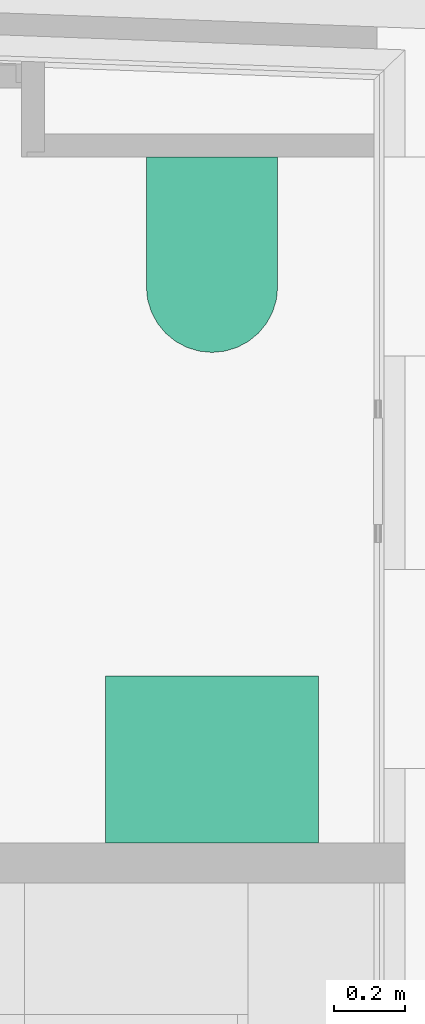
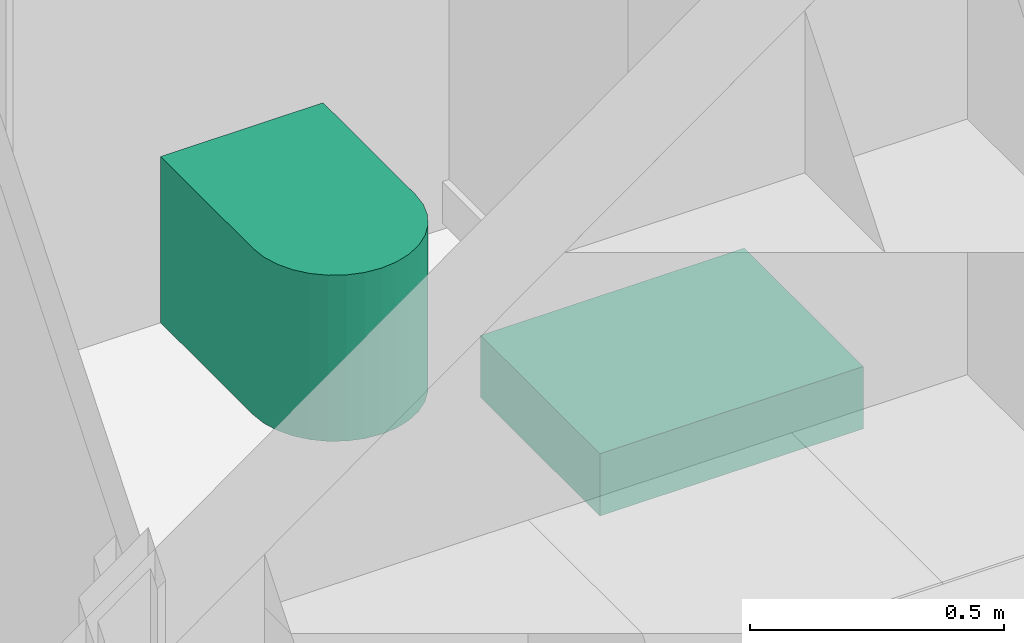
# One storey, part 22 of 23: 2 flow terminals.
"""IFC2X3 building model written with IfcOpenShell, lengths in metres."""

from ifc_helpers import new_model, entity, si_unit, converted_unit, derived_unit, money_unit, direction, frame, origin_with_axes, place, context, subcontext, project, spatial, faceted_brep, type_object, element, save


model = new_model("IFC2X3")

# Units and contexts
model_context = context("Model", 3, precision=1e-05, world=origin_with_axes(), true_north=direction((0.0, 1.0)))
body_context = subcontext(model_context, "Body", "Model", "MODEL_VIEW", scale=1.0)
ifc_project = project(units=[si_unit("LENGTHUNIT", "METRE"), si_unit("AREAUNIT", "SQUARE_METRE"), si_unit("VOLUMEUNIT", "CUBIC_METRE"), si_unit("ABSORBEDDOSEUNIT", "GRAY"), si_unit("AMOUNTOFSUBSTANCEUNIT", "MOLE"), si_unit("DOSEEQUIVALENTUNIT", "SIEVERT"), si_unit("ELECTRICCAPACITANCEUNIT", "FARAD"), si_unit("ELECTRICCHARGEUNIT", "COULOMB"), si_unit("ELECTRICCONDUCTANCEUNIT", "SIEMENS"), si_unit("ELECTRICCURRENTUNIT", "AMPERE"), si_unit("ELECTRICRESISTANCEUNIT", "OHM"), si_unit("ELECTRICVOLTAGEUNIT", "VOLT"), si_unit("ENERGYUNIT", "JOULE"), si_unit("FORCEUNIT", "NEWTON"), si_unit("FREQUENCYUNIT", "HERTZ"), si_unit("ILLUMINANCEUNIT", "LUX"), si_unit("INDUCTANCEUNIT", "HENRY"), si_unit("LUMINOUSFLUXUNIT", "LUMEN"), si_unit("LUMINOUSINTENSITYUNIT", "CANDELA"), si_unit("MAGNETICFLUXDENSITYUNIT", "TESLA"), si_unit("MAGNETICFLUXUNIT", "WEBER"), si_unit("MASSUNIT", "GRAM"), converted_unit("PLANEANGLEUNIT", "degree", entity("IfcReal", 0.0174532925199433), si_unit("PLANEANGLEUNIT", "RADIAN"), dimensions=[0, 0, 0, 0, 0, 0, 0]), si_unit("POWERUNIT", "WATT"), si_unit("PRESSUREUNIT", "PASCAL"), si_unit("RADIOACTIVITYUNIT", "BECQUEREL"), si_unit("SOLIDANGLEUNIT", "STERADIAN"), si_unit("THERMODYNAMICTEMPERATUREUNIT", "KELVIN"), si_unit("TIMEUNIT", "SECOND"), derived_unit("ACCELERATIONUNIT", [(si_unit("LENGTHUNIT", "METRE"), 1), (si_unit("TIMEUNIT", "SECOND"), -2)]), derived_unit("ANGULARVELOCITYUNIT", [(converted_unit("PLANEANGLEUNIT", "degree", entity("IfcReal", 0.0174532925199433), si_unit("PLANEANGLEUNIT", "RADIAN"), dimensions=[0, 0, 0, 0, 0, 0, 0]), 1), (si_unit("TIMEUNIT", "SECOND"), -1)]), derived_unit("CURVATUREUNIT", [(converted_unit("PLANEANGLEUNIT", "degree", entity("IfcReal", 0.0174532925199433), si_unit("PLANEANGLEUNIT", "RADIAN"), dimensions=[0, 0, 0, 0, 0, 0, 0]), 1), (si_unit("LENGTHUNIT", "METRE"), -1)]), derived_unit("DYNAMICVISCOSITYUNIT", [(si_unit("PRESSUREUNIT", "PASCAL"), 1), (si_unit("TIMEUNIT", "SECOND"), 1)]), derived_unit("HEATFLUXDENSITYUNIT", [(si_unit("POWERUNIT", "WATT"), 1), (si_unit("LENGTHUNIT", "METRE"), -2)]), derived_unit("HEATINGVALUEUNIT", [(si_unit("ENERGYUNIT", "JOULE"), 1), (si_unit("MASSUNIT", "GRAM"), -1)]), derived_unit("INTEGERCOUNTRATEUNIT", [(si_unit("TIMEUNIT", "SECOND"), -1)]), derived_unit("IONCONCENTRATIONUNIT", [(si_unit("MASSUNIT", "GRAM"), 1), (si_unit("VOLUMEUNIT", "CUBIC_METRE"), -1)]), derived_unit("ISOTHERMALMOISTURECAPACITYUNIT", [(si_unit("VOLUMEUNIT", "CUBIC_METRE"), 1), (si_unit("MASSUNIT", "GRAM"), -1)]), derived_unit("KINEMATICVISCOSITYUNIT", [(si_unit("AREAUNIT", "SQUARE_METRE"), 1), (si_unit("TIMEUNIT", "SECOND"), -1)]), derived_unit("LINEARFORCEUNIT", [(si_unit("FORCEUNIT", "NEWTON"), 1), (si_unit("LENGTHUNIT", "METRE"), -1)]), derived_unit("LINEARMOMENTUNIT", [(si_unit("FORCEUNIT", "NEWTON"), 1), (si_unit("LENGTHUNIT", "METRE"), -1)]), derived_unit("LINEARSTIFFNESSUNIT", [(si_unit("FORCEUNIT", "NEWTON"), 1), (si_unit("LENGTHUNIT", "METRE"), -1)]), derived_unit("LINEARVELOCITYUNIT", [(si_unit("LENGTHUNIT", "METRE"), 1), (si_unit("TIMEUNIT", "SECOND"), -1)]), derived_unit("LUMINOUSINTENSITYDISTRIBUTIONUNIT", [(si_unit("LUMINOUSINTENSITYUNIT", "CANDELA"), 1), (si_unit("LUMINOUSFLUXUNIT", "LUMEN"), -1)]), derived_unit("MASSDENSITYUNIT", [(si_unit("MASSUNIT", "GRAM"), 1), (si_unit("VOLUMEUNIT", "CUBIC_METRE"), -1)]), derived_unit("MASSFLOWRATEUNIT", [(si_unit("MASSUNIT", "GRAM"), 1), (si_unit("TIMEUNIT", "SECOND"), -1)]), derived_unit("MASSPERLENGTHUNIT", [(si_unit("MASSUNIT", "GRAM"), 1), (si_unit("LENGTHUNIT", "METRE"), -1)]), derived_unit("MODULUSOFELASTICITYUNIT", [(si_unit("FORCEUNIT", "NEWTON"), 1), (si_unit("AREAUNIT", "SQUARE_METRE"), -1)]), derived_unit("MODULUSOFLINEARSUBGRADEREACTIONUNIT", [(si_unit("FORCEUNIT", "NEWTON"), 1), (si_unit("LENGTHUNIT", "METRE"), -2)]), derived_unit("MODULUSOFROTATIONALSUBGRADEREACTIONUNIT", [(si_unit("FORCEUNIT", "NEWTON"), 1), (si_unit("LENGTHUNIT", "METRE"), 1)]), derived_unit("MODULUSOFSUBGRADEREACTIONUNIT", [(si_unit("FORCEUNIT", "NEWTON"), 1), (si_unit("VOLUMEUNIT", "CUBIC_METRE"), -1)]), derived_unit("MOISTUREDIFFUSIVITYUNIT", [(si_unit("VOLUMEUNIT", "CUBIC_METRE"), 1), (si_unit("TIMEUNIT", "SECOND"), -1)]), derived_unit("MOLECULARWEIGHTUNIT", [(si_unit("MASSUNIT", "GRAM"), 1), (si_unit("AMOUNTOFSUBSTANCEUNIT", "MOLE"), -1)]), derived_unit("PLANARFORCEUNIT", [(si_unit("FORCEUNIT", "NEWTON"), 1), (si_unit("LENGTHUNIT", "METRE"), -2)]), derived_unit("ROTATIONALFREQUENCYUNIT", [(si_unit("TIMEUNIT", "SECOND"), -1)]), derived_unit("ROTATIONALMASSUNIT", [(si_unit("MASSUNIT", "GRAM"), 1), (si_unit("LENGTHUNIT", "METRE"), 2)]), derived_unit("ROTATIONALSTIFFNESSUNIT", [(si_unit("FORCEUNIT", "NEWTON"), 1), (si_unit("LENGTHUNIT", "METRE"), 1), (converted_unit("PLANEANGLEUNIT", "degree", entity("IfcReal", 0.0174532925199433), si_unit("PLANEANGLEUNIT", "RADIAN"), dimensions=[0, 0, 0, 0, 0, 0, 0]), -1)]), derived_unit("SECTIONAREAINTEGRALUNIT", [(si_unit("LENGTHUNIT", "METRE"), 5)]), derived_unit("SECTIONMODULUSUNIT", [(si_unit("LENGTHUNIT", "METRE"), 3)]), derived_unit("SHEARMODULUSUNIT", [(si_unit("FORCEUNIT", "NEWTON"), 1), (si_unit("AREAUNIT", "SQUARE_METRE"), -1)]), derived_unit("SOUNDPOWERUNIT", [(si_unit("ENERGYUNIT", "JOULE"), 1), (si_unit("TIMEUNIT", "SECOND"), -1)]), derived_unit("SPECIFICHEATCAPACITYUNIT", [(si_unit("FORCEUNIT", "NEWTON"), 1), (si_unit("MASSUNIT", "GRAM"), -1), (si_unit("THERMODYNAMICTEMPERATUREUNIT", "KELVIN"), -1)]), derived_unit("TEMPERATUREGRADIENTUNIT", [(si_unit("THERMODYNAMICTEMPERATUREUNIT", "KELVIN"), 1), (si_unit("LENGTHUNIT", "METRE"), -1)]), derived_unit("THERMALADMITTANCEUNIT", [(si_unit("POWERUNIT", "WATT"), 1), (si_unit("AREAUNIT", "SQUARE_METRE"), -1), (si_unit("THERMODYNAMICTEMPERATUREUNIT", "KELVIN"), -1)]), derived_unit("THERMALCONDUCTANCEUNIT", [(si_unit("POWERUNIT", "WATT"), 1), (si_unit("LENGTHUNIT", "METRE"), -1), (si_unit("THERMODYNAMICTEMPERATUREUNIT", "KELVIN"), -1)]), derived_unit("THERMALEXPANSIONCOEFFICIENTUNIT", [(si_unit("THERMODYNAMICTEMPERATUREUNIT", "KELVIN"), -1)]), derived_unit("THERMALRESISTANCEUNIT", [(si_unit("AREAUNIT", "SQUARE_METRE"), 1), (si_unit("POWERUNIT", "WATT"), -1)]), derived_unit("THERMALTRANSMITTANCEUNIT", [(si_unit("POWERUNIT", "WATT"), 1), (si_unit("AREAUNIT", "SQUARE_METRE"), -1), (si_unit("THERMODYNAMICTEMPERATUREUNIT", "KELVIN"), -1)]), derived_unit("TORQUEUNIT", [(si_unit("FORCEUNIT", "NEWTON"), 1), (si_unit("LENGTHUNIT", "METRE"), 1)]), derived_unit("VAPORPERMEABILITYUNIT", [(si_unit("MASSUNIT", "GRAM"), 1), (si_unit("TIMEUNIT", "SECOND"), -1)]), derived_unit("VOLUMETRICFLOWRATEUNIT", [(si_unit("VOLUMEUNIT", "CUBIC_METRE"), 1), (si_unit("TIMEUNIT", "SECOND"), -1)]), derived_unit("WARPINGCONSTANTUNIT", [(si_unit("LENGTHUNIT", "METRE"), 6)]), derived_unit("WARPINGMOMENTUNIT", [(si_unit("FORCEUNIT", "NEWTON"), 1), (si_unit("LENGTHUNIT", "METRE"), 2)]), money_unit("GBP")], contexts=[model_context])

# Site, building, storey, space
site_placement = place(None, origin_with_axes())
site = spatial("IfcSite", under=ifc_project, at=site_placement, Name="Site", CompositionType="ELEMENT")
building_placement = place(site_placement, origin_with_axes())
building = spatial("IfcBuilding", under=site, at=building_placement, Name="Building01", CompositionType="ELEMENT")
storey_placement = place(building_placement, frame((0.0, 0.0, 2.6), z_axis=(0.0, 0.0, 1.0), x_axis=(1.0, 0.0, 0.0)))
storey = spatial("IfcBuildingStorey", under=building, at=storey_placement, Name="MF", CompositionType="ELEMENT", Elevation=2.6)
space_placement = place(storey_placement, frame((0.352897, 21.240404, 0.585), z_axis=(0.0, 0.0, 1.0), x_axis=(-1.921e-05, -1.0, 0.0)))
space = spatial("IfcSpace", under=storey, at=space_placement, Name="01", CompositionType="ELEMENT", InteriorOrExteriorSpace="NOTDEFINED")

# Flow terminals
sanitary_terminal_type_1 = type_object("IfcSanitaryTerminalType", Name="SHE_A-Sink_47x60", PredefinedType="NOTDEFINED")
flow_terminal_1_placement = place(storey_placement, frame((8.61085, 18.987607, 1.405999), z_axis=(0.0, 0.0, 1.0), x_axis=(0.0, 1.0, 0.0)))
element("IfcFlowTerminal", 1, at=flow_terminal_1_placement, inside=space, type_object=sanitary_terminal_type_1, Name="00", ObjectType="SHE_A-Sink_47x60", context=body_context, shape_type="Brep", body=[
    faceted_brep([(-0.235, 0.3, -0.075), (-0.235, 0.3, 0.075), (0.235, 0.3, 0.075), (0.235, 0.3, -0.075), (0.235, -0.3, 0.075), (0.235, -0.3, -0.075), (-0.235, -0.3, 0.075), (-0.235, -0.3, -0.075)], [[[0, 1, 2, 3]], [[3, 2, 4, 5]], [[5, 4, 6, 7]], [[7, 6, 1, 0]], [[1, 6, 4, 2]], [[3, 5, 7, 0]]]),
])
sanitary_terminal_type_2 = type_object("IfcSanitaryTerminalType", Name="SHE_A-Toilet_base", PredefinedType="NOTDEFINED")
flow_terminal_2_placement = place(storey_placement, frame((8.610849, 20.4089, 0.785), z_axis=(0.0, 0.0, 1.0), x_axis=(0.0, 1.0, 0.0)))
element("IfcFlowTerminal", 2, at=flow_terminal_2_placement, inside=space, type_object=sanitary_terminal_type_2, Name="00", ObjectType="SHE_A-Toilet_base", context=body_context, shape_type="Brep", body=[
    faceted_brep([(0.275003, 0.185008, -0.2), (0.275003, -0.185009, -0.2), (-0.089995, -0.185009, -0.2), (-0.126088, -0.181454, -0.2), (-0.160795, -0.170926, -0.2), (-0.19278, -0.153829, -0.2), (-0.220816, -0.130821, -0.2), (-0.243824, -0.102785, -0.2), (-0.26092, -0.0708, -0.2), (-0.271448, -0.036093, -0.2), (-0.275003, 0.0, -0.2), (-0.271448, 0.036093, -0.2), (-0.26092, 0.0708, -0.2), (-0.243824, 0.102785, -0.2), (-0.220816, 0.130821, -0.2), (-0.19278, 0.153829, -0.2), (-0.160795, 0.170926, -0.2), (-0.126088, 0.181454, -0.2), (-0.089995, 0.185008, -0.2), (-0.089995, 0.185008, 0.2), (-0.126088, 0.181454, 0.2), (-0.160795, 0.170926, 0.2), (-0.19278, 0.153829, 0.2), (-0.220816, 0.130821, 0.2), (-0.243824, 0.102785, 0.2), (-0.26092, 0.0708, 0.2), (-0.271448, 0.036093, 0.2), (-0.275003, 0.0, 0.2), (-0.271448, -0.036093, 0.2), (-0.26092, -0.0708, 0.2), (-0.243824, -0.102785, 0.2), (-0.220816, -0.130821, 0.2), (-0.19278, -0.153829, 0.2), (-0.160795, -0.170926, 0.2), (-0.126088, -0.181454, 0.2), (-0.089995, -0.185009, 0.2), (0.275003, -0.185009, 0.2), (0.275003, 0.185008, 0.2)], [[[0, 1, 2, 3, 4, 5, 6, 7, 8, 9, 10, 11, 12, 13, 14, 15, 16, 17, 18]], [[19, 20, 21, 22, 23, 24, 25, 26, 27, 28, 29, 30, 31, 32, 33, 34, 35, 36, 37]], [[2, 35, 34, 3]], [[3, 34, 33, 4]], [[4, 33, 32, 5]], [[5, 32, 31, 6]], [[6, 31, 30, 7]], [[7, 30, 29, 8]], [[8, 29, 28, 9]], [[9, 28, 27, 10]], [[10, 27, 26, 11]], [[11, 26, 25, 12]], [[12, 25, 24, 13]], [[13, 24, 23, 14]], [[14, 23, 22, 15]], [[15, 22, 21, 16]], [[16, 21, 20, 17]], [[17, 20, 19, 18]], [[1, 36, 35, 2]], [[0, 37, 36, 1]], [[18, 19, 37, 0]]]),
])

save(model, "model.ifc")
